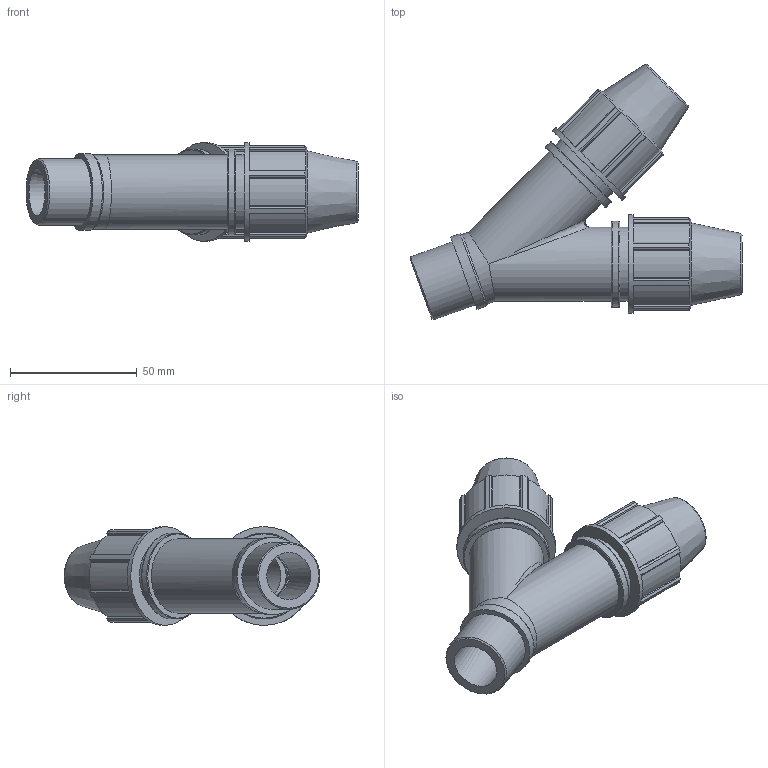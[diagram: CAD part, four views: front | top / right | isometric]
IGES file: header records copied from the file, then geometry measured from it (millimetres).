
Global section: file name: 075506016007__0755060160070A.ipt; native system: Autodesk Inventor 2015; preprocessor: unknown; author: KIM; date: 20170618.093418; units: millimetre
Bounding box: 131.14 x 100.96 x 39 mm (x, y, z)
Volume: 111653.3 mm3; surface area: 36486.7 mm2
Topology: 1 solids, 1 shells, 159 faces, 418 edges, 273 vertices
Faces by surface type: plane 100, cylinder 29, revolution 24, cone 5, bspline 1
Full cylindrical faces by diameter (mm): 26.441 x1, 29.25 x5, 30.407 x1, 33.93 x2, 39 x2
